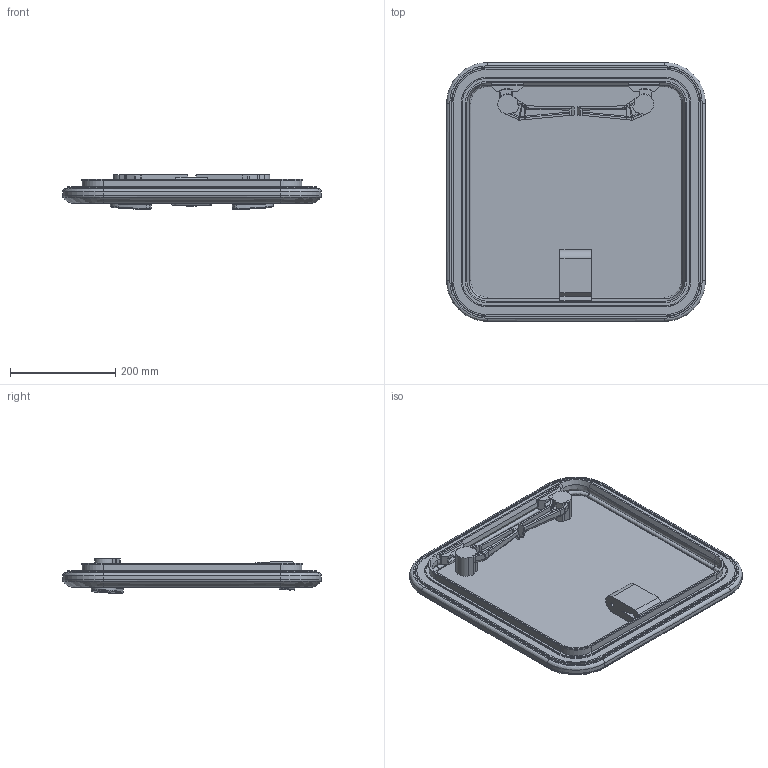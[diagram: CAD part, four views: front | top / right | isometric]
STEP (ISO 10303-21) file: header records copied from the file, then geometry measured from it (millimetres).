
FILE_DESCRIPTION((''),'2;1');
FILE_NAME('LEWMAR-HATCH-MEDPRO-40_ASM','2008-02-04T',('skennedy'),(''),'PRO/ENGINEER BY PARAMETRIC TECHNOLOGY CORPORATION, 2007030','PRO/ENGINEER BY PARAMETRIC TECHNOLOGY CORPORATION, 2007030','');
FILE_SCHEMA(('CONFIG_CONTROL_DESIGN'));
Length unit declared in the file: millimetre
Products named in the file (6): FRAME_MP_40; 3594043X; HANDLE_LHS; HANDLE_RHS; HINGE_LEVER; LEWMAR-HATCH-MEDPRO-40_ASM
Assembly tree (5 placements, depth 2):
  LEWMAR-HATCH-MEDPRO-40_ASM
    FRAME_MP_40
    3594043X
    HANDLE_LHS
    HANDLE_RHS
    HINGE_LEVER
Bounding box: 492 x 492 x 65.24 mm (x, y, z)
Volume: 2585699.8 mm3; surface area: 861220.5 mm2
Topology: 3 solids, 5 shells, 991 faces, 2530 edges, 1562 vertices
Faces by surface type: plane 368, bspline 299, cylinder 189, torus 43, cone 37, extrusion 35, sphere 20
Entity records: 41393 total; most frequent: CARTESIAN_POINT 19701, ORIENTED_EDGE 5026, DIRECTION 3548, EDGE_CURVE 2515, VERTEX_POINT 1562, AXIS2_PLACEMENT_3D 1218, VECTOR 1112, LINE 1077
